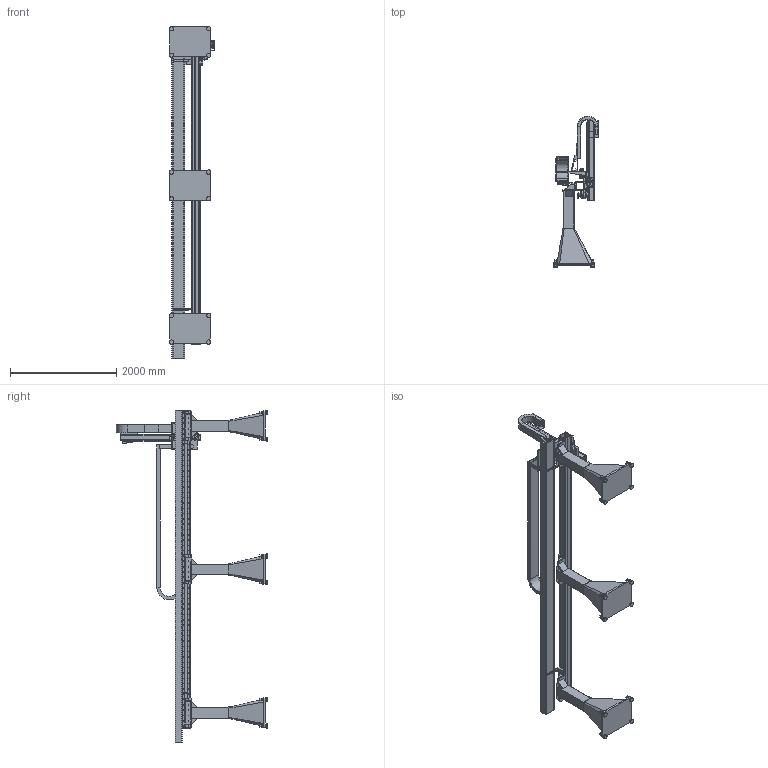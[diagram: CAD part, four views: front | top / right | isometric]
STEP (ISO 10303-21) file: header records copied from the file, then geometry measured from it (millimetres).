
FILE_DESCRIPTION (( 'STEP AP203' ), '1' );
FILE_NAME ('10-00000611-001.STEP', '2019-11-01T08:51:28', ( '' ), ( '' ), 'SwSTEP 2.0', 'SolidWorks 2017', '' );
FILE_SCHEMA (( 'CONFIG_CONTROL_DESIGN' ));
Length unit declared in the file: millimetre
Products named in the file (13): 10-00000611-016; 10-00000611-012; 10-00000611-014_-__asm; 10-00000611-013; 10-00000611-009; 10-00000611-005; 10-00000611-020_.; 10-00000611-011; 10-00000611-010_Links; 10-00000611-001; 10-00000611-010_Rechts; 10-00000611-006; 10-00000611-008
Assembly tree (16 placements, depth 2):
  10-00000611-001
    10-00000611-020_.
    10-00000611-011
    10-00000611-010_Links
    10-00000611-010_Rechts
    10-00000611-006  x2
    10-00000611-016
    10-00000611-014_-__asm  x2
    10-00000611-008
    10-00000611-012
    10-00000611-009
    10-00000611-013  x3
    10-00000611-005
Bounding box: 850.5 x 2844.2 x 6250 mm (x, y, z)
Volume: 509368213.5 mm3; surface area: 34422112.3 mm2
Topology: 62 solids, 84 shells, 3092 faces, 7854 edges, 5035 vertices
Faces by surface type: plane 1685, cylinder 1173, cone 226, torus 8
Entity records: 56231 total; most frequent: CARTESIAN_POINT 10134, DIRECTION 9385, ORIENTED_EDGE 9030, EDGE_CURVE 4517, AXIS2_PLACEMENT_3D 3255, VERTEX_POINT 2956, LINE 2875, VECTOR 2875
